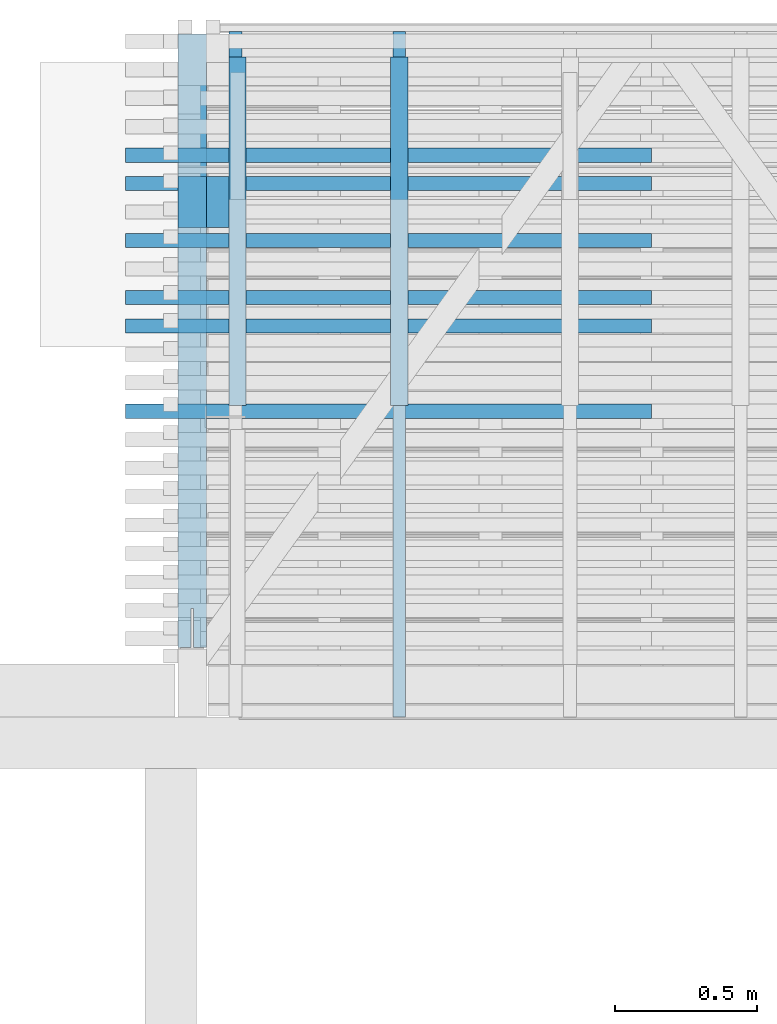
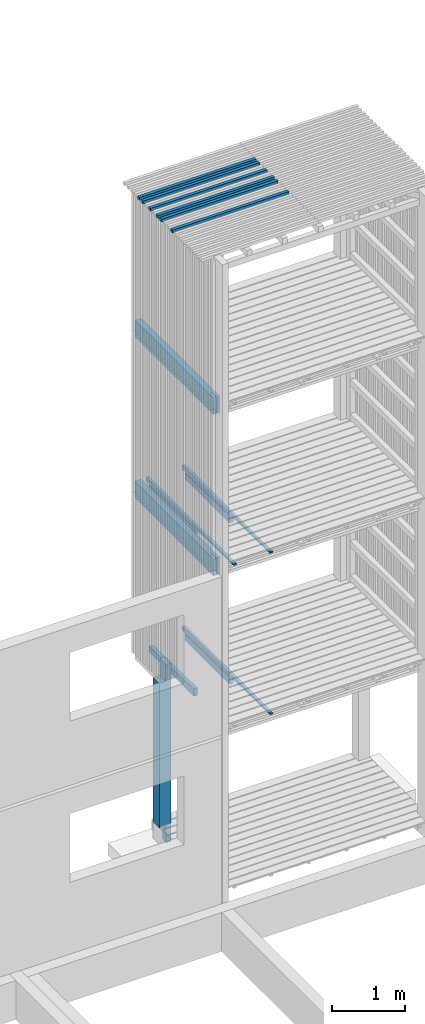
# One storey, part 63 of 182: 16 beams.
"""IFC2X3 building model written with IfcOpenShell, lengths in metres."""

from ifc_helpers import new_model, si_unit, frame, origin, place, context, project, spatial, faceted_brep, element, save


model = new_model("IFC2X3")

# Units and contexts
model_context = context("Model", 3, precision=1e-06, world=origin())
ifc_project = project(units=[si_unit("LENGTHUNIT", "METRE"), si_unit("PLANEANGLEUNIT", "RADIAN")], contexts=[model_context])

# Site, building, storey
site = spatial("IfcSite", under=ifc_project, CompositionType="ELEMENT")
building = spatial("IfcBuilding", under=site, CompositionType="ELEMENT")
storey = spatial("IfcBuildingStorey", under=building, Name="vs", CompositionType="ELEMENT", Elevation=-0.85)

# Beams
placement = place(None, origin())
beam_1_placement = place(placement, frame((24.709999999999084, 11.545077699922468, 10.47999999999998), z_axis=(0.0, 0.0, 1.0), x_axis=(-1.0, -2e-15, 0.0)))
element("IfcBeam", 1, at=beam_1_placement, inside=storey, Name="Bardage", context=model_context, shape_type="Brep", body=[
    faceted_brep([(1.850000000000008, -0.025000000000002, -0.024999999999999), (1.850000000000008, -0.025000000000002, 0.025000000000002), (-1e-15, -0.024999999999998, 0.025000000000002), (-1e-15, -0.024999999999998, -0.024999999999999), (1.850000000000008, -0.025000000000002, 0.025000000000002), (1.850000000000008, -0.025000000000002, -0.024999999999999), (1.850000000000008, 0.024999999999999, -0.024999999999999), (1.850000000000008, 0.024999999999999, 0.025000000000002), (1.850000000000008, 0.024999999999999, -0.024999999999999), (1.850000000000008, -0.025000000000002, -0.024999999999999), (-1e-15, -0.024999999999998, -0.024999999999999), (0.0, 0.025000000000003, -0.024999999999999), (1.850000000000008, 0.024999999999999, 0.025000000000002), (1.850000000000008, 0.024999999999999, -0.024999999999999), (0.0, 0.025000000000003, -0.024999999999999), (0.0, 0.025000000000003, 0.025000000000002), (-1e-15, -0.024999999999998, 0.025000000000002), (1.850000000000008, -0.025000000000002, 0.025000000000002), (1.850000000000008, 0.024999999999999, 0.025000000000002), (0.0, 0.025000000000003, 0.025000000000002), (-1e-15, -0.024999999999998, -0.024999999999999), (-1e-15, -0.024999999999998, 0.025000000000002), (0.0, 0.025000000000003, 0.025000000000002), (0.0, 0.025000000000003, -0.024999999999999)], [[[0, 1, 2, 3]], [[4, 5, 6, 7]], [[8, 9, 10, 11]], [[12, 13, 14, 15]], [[16, 17, 18, 19]], [[20, 21, 22, 23]]]),
])
beam_2_placement = place(placement, frame((23.82299999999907, 11.565077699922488, 5.304249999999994), z_axis=(0.0, 0.0, 1.0), x_axis=(0.0, 1.0, 0.0)))
element("IfcBeam", 2, at=beam_2_placement, inside=storey, Name="Solive", context=model_context, shape_type="Brep", body=[
    faceted_brep([(0.0, -0.030000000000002, -0.061849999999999), (1.225000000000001, -0.030000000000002, -0.061849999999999), (1.225000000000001, -0.030000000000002, 0.03735), (0.0, -0.030000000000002, 0.06185), (0.0, 0.030000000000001, 0.061850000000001), (0.0, 0.030000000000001, -0.061849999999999), (0.0, -0.030000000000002, -0.061849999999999), (0.0, -0.030000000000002, 0.06185), (0.0, -0.030000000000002, -0.061849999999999), (0.0, 0.030000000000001, -0.061849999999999), (1.225000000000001, 0.030000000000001, -0.061849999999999), (1.225000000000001, -0.030000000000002, -0.061849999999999), (1.225000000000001, 0.030000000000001, -0.061849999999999), (0.0, 0.030000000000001, -0.061849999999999), (0.0, 0.030000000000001, 0.061850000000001), (1.225000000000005, 0.030000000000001, 0.03735), (1.225000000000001, -0.030000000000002, 0.03735), (1.225000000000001, -0.030000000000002, -0.061849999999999), (1.225000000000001, 0.030000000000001, -0.061849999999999), (1.225000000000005, 0.030000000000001, 0.03735), (0.0, -0.030000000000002, 0.06185), (1.225000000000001, -0.030000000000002, 0.03735), (1.225000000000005, 0.030000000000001, 0.03735), (0.0, 0.030000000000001, 0.061850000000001)], [[[0, 1, 2, 3]], [[4, 5, 6, 7]], [[8, 9, 10, 11]], [[12, 13, 14, 15]], [[16, 17, 18, 19]], [[20, 21, 22, 23]]]),
])
beam_3_placement = place(placement, frame((24.709999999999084, 11.845077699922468, 10.47999999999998), z_axis=(0.0, 0.0, 1.0), x_axis=(-1.0, -2e-15, 0.0)))
element("IfcBeam", 3, at=beam_3_placement, inside=storey, Name="Bardage", context=model_context, shape_type="Brep", body=[
    faceted_brep([(1.850000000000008, -0.025000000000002, -0.024999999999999), (1.850000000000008, -0.025000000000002, 0.025000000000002), (-1e-15, -0.024999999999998, 0.025000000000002), (-1e-15, -0.024999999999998, -0.024999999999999), (1.850000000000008, -0.025000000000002, 0.025000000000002), (1.850000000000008, -0.025000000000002, -0.024999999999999), (1.850000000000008, 0.024999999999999, -0.024999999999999), (1.850000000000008, 0.024999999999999, 0.025000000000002), (1.850000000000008, 0.024999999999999, -0.024999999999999), (1.850000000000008, -0.025000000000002, -0.024999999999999), (-1e-15, -0.024999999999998, -0.024999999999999), (-1e-15, 0.025000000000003, -0.024999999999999), (1.850000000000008, 0.024999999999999, 0.025000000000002), (1.850000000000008, 0.024999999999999, -0.024999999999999), (-1e-15, 0.025000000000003, -0.024999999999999), (-1e-15, 0.025000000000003, 0.025000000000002), (-1e-15, -0.024999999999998, 0.025000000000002), (1.850000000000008, -0.025000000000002, 0.025000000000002), (1.850000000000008, 0.024999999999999, 0.025000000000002), (-1e-15, 0.025000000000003, 0.025000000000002), (-1e-15, -0.024999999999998, -0.024999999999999), (-1e-15, -0.024999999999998, 0.025000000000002), (-1e-15, 0.025000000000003, 0.025000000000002), (-1e-15, 0.025000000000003, -0.024999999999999)], [[[0, 1, 2, 3]], [[4, 5, 6, 7]], [[8, 9, 10, 11]], [[12, 13, 14, 15]], [[16, 17, 18, 19]], [[20, 21, 22, 23]]]),
])
beam_4_placement = place(placement, frame((23.25499999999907, 11.565077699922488, 2.604249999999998), z_axis=(0.0, 0.0, 1.0), x_axis=(0.0, 1.0, 0.0)))
element("IfcBeam", 4, at=beam_4_placement, inside=storey, Name="Solive", context=model_context, shape_type="Brep", body=[
    faceted_brep([(0.0, -0.030000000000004, -0.06185), (1.225000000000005, -0.030000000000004, -0.06185), (1.225000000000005, -0.030000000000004, 0.037349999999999), (0.0, -0.030000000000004, 0.06185), (0.0, 0.029999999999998, -0.06185), (1.225000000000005, 0.029999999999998, -0.06185), (1.225000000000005, -0.030000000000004, -0.06185), (0.0, -0.030000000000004, -0.06185), (0.0, 0.029999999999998, 0.06185), (0.0, 0.029999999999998, -0.06185), (0.0, -0.030000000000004, -0.06185), (0.0, -0.030000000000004, 0.06185), (1.225000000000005, 0.029999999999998, -0.06185), (0.0, 0.029999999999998, -0.06185), (0.0, 0.029999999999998, 0.06185), (1.225000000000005, 0.029999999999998, 0.037349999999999), (1.225000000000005, -0.030000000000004, 0.037349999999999), (1.225000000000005, -0.030000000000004, -0.06185), (1.225000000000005, 0.029999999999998, -0.06185), (1.225000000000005, 0.029999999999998, 0.037349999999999), (0.0, -0.030000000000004, 0.06185), (1.225000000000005, -0.030000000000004, 0.037349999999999), (1.225000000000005, 0.029999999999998, 0.037349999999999), (0.0, 0.029999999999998, 0.06185)], [[[0, 1, 2, 3]], [[4, 5, 6, 7]], [[8, 9, 10, 11]], [[12, 13, 14, 15]], [[16, 17, 18, 19]], [[20, 21, 22, 23]]]),
])
beam_5_placement = place(placement, frame((23.24749999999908, 10.470077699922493, 5.384400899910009), z_axis=(0.0, 0.0, 1.0), x_axis=(0.0, 1.0, 0.0)))
element("IfcBeam", 5, at=beam_5_placement, inside=storey, Name="Calage", context=model_context, shape_type="Brep", body=[
    faceted_brep([(2.41000000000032, -0.022499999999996, -0.035599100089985), (0.0, -0.022499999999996, 0.012600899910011), (0.0, 0.022500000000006, 0.012600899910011), (2.41000000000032, 0.022500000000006, -0.035599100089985), (0.0, 0.022500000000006, 0.035599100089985), (0.0, 0.022500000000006, 0.012600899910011), (0.0, -0.022499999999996, 0.012600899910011), (0.0, -0.022499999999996, 0.035599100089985), (2.41000000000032, 0.022500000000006, -0.035599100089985), (0.0, 0.022500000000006, 0.012600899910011), (0.0, 0.022500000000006, 0.035599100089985), (2.41000000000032, 0.022500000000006, 0.035599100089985), (2.41000000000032, -0.022499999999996, 0.035599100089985), (0.0, -0.022499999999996, 0.035599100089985), (0.0, -0.022499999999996, 0.012600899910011), (2.41000000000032, -0.022499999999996, -0.035599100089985), (2.41000000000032, 0.022500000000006, 0.035599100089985), (0.0, 0.022500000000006, 0.035599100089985), (0.0, -0.022499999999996, 0.035599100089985), (2.41000000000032, -0.022499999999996, 0.035599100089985), (2.41000000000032, 0.022500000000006, -0.035599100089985), (2.41000000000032, 0.022500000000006, 0.035599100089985), (2.41000000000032, -0.022499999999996, 0.035599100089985), (2.41000000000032, -0.022499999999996, -0.035599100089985)], [[[0, 1, 2, 3]], [[4, 5, 6, 7]], [[8, 9, 10, 11]], [[12, 13, 14, 15]], [[16, 17, 18, 19]], [[20, 21, 22, 23]]]),
])
beam_6_placement = place(placement, frame((23.82299999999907, 10.470077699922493, 2.684400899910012), z_axis=(0.0, 0.0, 1.0), x_axis=(0.0, 1.0, 0.0)))
element("IfcBeam", 6, at=beam_6_placement, inside=storey, Name="Calage", context=model_context, shape_type="Brep", body=[
    faceted_brep([(2.41000000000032, -0.022500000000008, -0.035599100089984), (0.0, -0.022500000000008, 0.012600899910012), (0.0, 0.022499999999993, 0.012600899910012), (2.41000000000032, 0.022499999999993, -0.035599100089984), (0.0, 0.022499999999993, 0.035599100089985), (0.0, 0.022499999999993, 0.012600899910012), (0.0, -0.022500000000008, 0.012600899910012), (0.0, -0.022500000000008, 0.035599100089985), (2.41000000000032, 0.022499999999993, -0.035599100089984), (0.0, 0.022499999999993, 0.012600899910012), (0.0, 0.022499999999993, 0.035599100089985), (2.41000000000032, 0.022499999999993, 0.035599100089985), (2.41000000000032, -0.022500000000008, 0.035599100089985), (0.0, -0.022500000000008, 0.035599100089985), (0.0, -0.022500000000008, 0.012600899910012), (2.41000000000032, -0.022500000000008, -0.035599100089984), (2.41000000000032, 0.022499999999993, 0.035599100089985), (0.0, 0.022499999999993, 0.035599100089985), (0.0, -0.022500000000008, 0.035599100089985), (2.41000000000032, -0.022500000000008, 0.035599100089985), (2.41000000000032, 0.022499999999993, -0.035599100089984), (2.41000000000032, 0.022499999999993, 0.035599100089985), (2.41000000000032, -0.022500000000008, 0.035599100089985), (2.41000000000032, -0.022500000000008, -0.035599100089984)], [[[0, 1, 2, 3]], [[4, 5, 6, 7]], [[8, 9, 10, 11]], [[12, 13, 14, 15]], [[16, 17, 18, 19]], [[20, 21, 22, 23]]]),
])
beam_7_placement = place(placement, frame((24.709999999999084, 12.145077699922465, 10.47999999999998), z_axis=(0.0, 0.0, 1.0), x_axis=(-1.0, 0.0, 0.0)))
element("IfcBeam", 7, at=beam_7_placement, inside=storey, Name="Bardage", context=model_context, shape_type="Brep", body=[
    faceted_brep([(1.850000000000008, -0.024999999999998, -0.024999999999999), (1.850000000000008, -0.024999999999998, 0.025000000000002), (-1e-15, -0.025000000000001, 0.025000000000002), (-1e-15, -0.025000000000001, -0.024999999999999), (1.850000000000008, -0.024999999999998, 0.025000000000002), (1.850000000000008, -0.024999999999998, -0.024999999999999), (1.850000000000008, 0.024999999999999, -0.024999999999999), (1.850000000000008, 0.024999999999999, 0.025000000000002), (1.850000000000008, 0.024999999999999, -0.024999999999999), (1.850000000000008, -0.024999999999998, -0.024999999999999), (-1e-15, -0.025000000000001, -0.024999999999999), (-1e-15, 0.024999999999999, -0.024999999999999), (1.850000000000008, 0.024999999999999, 0.025000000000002), (1.850000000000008, 0.024999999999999, -0.024999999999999), (-1e-15, 0.024999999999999, -0.024999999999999), (-1e-15, 0.024999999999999, 0.025000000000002), (-1e-15, -0.025000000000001, 0.025000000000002), (1.850000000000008, -0.024999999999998, 0.025000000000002), (1.850000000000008, 0.024999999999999, 0.025000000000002), (-1e-15, 0.024999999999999, 0.025000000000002), (-1e-15, -0.025000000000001, -0.024999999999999), (-1e-15, -0.025000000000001, 0.025000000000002), (-1e-15, 0.024999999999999, 0.025000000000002), (-1e-15, 0.024999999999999, -0.024999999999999)], [[[0, 1, 2, 3]], [[4, 5, 6, 7]], [[8, 9, 10, 11]], [[12, 13, 14, 15]], [[16, 17, 18, 19]], [[20, 21, 22, 23]]]),
])
beam_8_placement = place(placement, frame((23.82299999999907, 11.565077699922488, 2.604249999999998), z_axis=(0.0, 0.0, 1.0), x_axis=(0.0, 1.0, 0.0)))
element("IfcBeam", 8, at=beam_8_placement, inside=storey, Name="Solive", context=model_context, shape_type="Brep", body=[
    faceted_brep([(0.0, -0.030000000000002, -0.06185), (1.225000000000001, -0.030000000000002, -0.06185), (1.225000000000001, -0.030000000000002, 0.037349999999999), (0.0, -0.030000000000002, 0.06185), (0.0, 0.030000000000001, 0.06185), (0.0, 0.030000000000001, -0.06185), (0.0, -0.030000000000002, -0.06185), (0.0, -0.030000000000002, 0.06185), (0.0, -0.030000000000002, -0.06185), (0.0, 0.030000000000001, -0.06185), (1.225000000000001, 0.030000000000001, -0.06185), (1.225000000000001, -0.030000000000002, -0.06185), (1.225000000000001, 0.030000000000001, -0.06185), (0.0, 0.030000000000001, -0.06185), (0.0, 0.030000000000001, 0.06185), (1.225000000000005, 0.030000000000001, 0.037349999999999), (1.225000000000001, -0.030000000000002, 0.037349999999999), (1.225000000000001, -0.030000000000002, -0.06185), (1.225000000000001, 0.030000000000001, -0.06185), (1.225000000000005, 0.030000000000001, 0.037349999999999), (0.0, -0.030000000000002, 0.06185), (1.225000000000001, -0.030000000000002, 0.037349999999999), (1.225000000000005, 0.030000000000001, 0.037349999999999), (0.0, 0.030000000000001, 0.06185)], [[[0, 1, 2, 3]], [[4, 5, 6, 7]], [[8, 9, 10, 11]], [[12, 13, 14, 15]], [[16, 17, 18, 19]], [[20, 21, 22, 23]]]),
])
beam_9_placement = place(placement, frame((23.094999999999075, 10.715077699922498, 5.279999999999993), z_axis=(0.0, 0.0, 1.0), x_axis=(0.0, 1.0, 0.0)))
element("IfcBeam", 9, at=beam_9_placement, inside=storey, Name="Sommier", context=model_context, shape_type="Brep", body=[
    faceted_brep([(2.154999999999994, 0.049999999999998, 0.140000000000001), (2.154999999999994, -0.049999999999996, 0.140000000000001), (2.154999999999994, -0.049999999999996, -0.140000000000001), (2.154999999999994, 0.049999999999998, -0.140000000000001), (0.771999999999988, -0.049999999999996, -0.140000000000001), (0.771999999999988, -0.049999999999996, 0.034999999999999), (0.847999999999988, -0.049999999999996, 0.034999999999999), (0.847999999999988, -0.049999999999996, -0.140000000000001), (2.154999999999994, -0.049999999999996, -0.140000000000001), (2.154999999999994, -0.049999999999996, 0.140000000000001), (0.0, -0.049999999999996, 0.140000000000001), (0.0, -0.049999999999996, -0.140000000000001), (0.771999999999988, -0.045000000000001, -0.140000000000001), (0.847999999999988, -0.045000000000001, -0.140000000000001), (0.847999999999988, -0.045000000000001, 0.034999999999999), (0.771999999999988, -0.045000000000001, 0.034999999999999), (0.771999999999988, -0.045000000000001, 0.034999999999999), (0.847999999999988, -0.045000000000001, 0.034999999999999), (0.847999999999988, -0.049999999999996, 0.034999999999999), (0.771999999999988, -0.049999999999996, 0.034999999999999), (0.847999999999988, -0.045000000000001, 0.034999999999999), (0.847999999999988, -0.045000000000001, -0.140000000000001), (0.847999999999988, -0.049999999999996, -0.140000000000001), (0.847999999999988, -0.049999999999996, 0.034999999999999), (0.771999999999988, -0.049999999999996, 0.034999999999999), (0.771999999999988, -0.049999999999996, -0.140000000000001), (0.771999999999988, -0.045000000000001, -0.140000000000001), (0.771999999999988, -0.045000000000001, 0.034999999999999), (2.154999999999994, 0.049999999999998, 0.140000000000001), (2.154999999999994, 0.049999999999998, -0.140000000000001), (0.0, 0.049999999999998, -0.140000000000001), (0.0, 0.049999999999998, 0.140000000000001), (0.0, -0.00399999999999, 0.140000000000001), (0.0, -0.049999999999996, 0.140000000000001), (2.154999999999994, -0.049999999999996, 0.140000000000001), (2.154999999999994, 0.049999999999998, 0.140000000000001), (0.0, 0.049999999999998, 0.140000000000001), (0.0, 0.004000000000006, 0.140000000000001), (0.137, 0.004000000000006, 0.140000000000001), (0.137, -0.00399999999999, 0.140000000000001), (0.0, 0.004000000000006, -0.140000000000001), (0.0, 0.004000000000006, 0.140000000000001), (0.0, 0.049999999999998, 0.140000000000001), (0.0, 0.049999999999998, -0.140000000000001), (0.0, -0.049999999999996, 0.140000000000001), (0.0, -0.00399999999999, 0.140000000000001), (0.0, -0.00399999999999, -0.140000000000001), (0.0, -0.049999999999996, -0.140000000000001), (0.0, 0.049999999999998, -0.140000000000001), (2.154999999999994, 0.049999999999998, -0.140000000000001), (2.154999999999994, -0.049999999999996, -0.140000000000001), (0.847999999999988, -0.049999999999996, -0.140000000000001), (0.847999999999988, -0.045000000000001, -0.140000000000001), (0.771999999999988, -0.045000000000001, -0.140000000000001), (0.771999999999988, -0.049999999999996, -0.140000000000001), (0.0, -0.049999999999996, -0.140000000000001), (0.0, -0.00399999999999, -0.140000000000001), (0.137, -0.00399999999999, -0.140000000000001), (0.137, 0.004000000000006, -0.140000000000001), (0.0, 0.004000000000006, -0.140000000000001), (0.137, 0.004000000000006, -0.140000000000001), (0.137, -0.00399999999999, -0.140000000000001), (0.137, -0.00399999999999, 0.140000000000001), (0.137, 0.004000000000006, 0.140000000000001), (0.0, -0.00399999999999, 0.140000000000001), (0.137, -0.00399999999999, 0.140000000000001), (0.137, -0.00399999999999, -0.140000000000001), (0.0, -0.00399999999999, -0.140000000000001), (0.137, 0.004000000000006, 0.140000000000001), (0.0, 0.004000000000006, 0.140000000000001), (0.0, 0.004000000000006, -0.140000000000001), (0.137, 0.004000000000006, -0.140000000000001)], [[[0, 1, 2, 3]], [[4, 5, 6, 7, 8, 9, 10, 11]], [[12, 13, 14, 15]], [[16, 17, 18, 19]], [[20, 21, 22, 23]], [[24, 25, 26, 27]], [[28, 29, 30, 31]], [[32, 33, 34, 35, 36, 37, 38, 39]], [[40, 41, 42, 43]], [[44, 45, 46, 47]], [[48, 49, 50, 51, 52, 53, 54, 55, 56, 57, 58, 59]], [[60, 61, 62, 63]], [[64, 65, 66, 67]], [[68, 69, 70, 71]]]),
])
beam_10_placement = place(placement, frame((23.25499999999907, 11.565077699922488, 5.304249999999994), z_axis=(0.0, 0.0, 1.0), x_axis=(0.0, 1.0, 0.0)))
element("IfcBeam", 10, at=beam_10_placement, inside=storey, Name="Solive", context=model_context, shape_type="Brep", body=[
    faceted_brep([(0.0, -0.030000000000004, -0.061849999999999), (1.225000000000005, -0.030000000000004, -0.061849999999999), (1.225000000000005, -0.030000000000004, 0.03735), (0.0, -0.030000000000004, 0.06185), (0.0, 0.029999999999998, -0.061849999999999), (1.225000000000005, 0.029999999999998, -0.061849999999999), (1.225000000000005, -0.030000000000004, -0.061849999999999), (0.0, -0.030000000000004, -0.061849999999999), (0.0, 0.029999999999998, 0.061850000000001), (0.0, 0.029999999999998, -0.061849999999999), (0.0, -0.030000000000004, -0.061849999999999), (0.0, -0.030000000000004, 0.06185), (1.225000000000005, 0.029999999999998, -0.061849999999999), (0.0, 0.029999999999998, -0.061849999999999), (0.0, 0.029999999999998, 0.061850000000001), (1.225000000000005, 0.029999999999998, 0.03735), (1.225000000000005, -0.030000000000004, 0.03735), (1.225000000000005, -0.030000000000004, -0.061849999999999), (1.225000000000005, 0.029999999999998, -0.061849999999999), (1.225000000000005, 0.029999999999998, 0.03735), (0.0, -0.030000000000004, 0.06185), (1.225000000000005, -0.030000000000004, 0.03735), (1.225000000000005, 0.029999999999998, 0.03735), (0.0, 0.029999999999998, 0.061850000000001)], [[[0, 1, 2, 3]], [[4, 5, 6, 7]], [[8, 9, 10, 11]], [[12, 13, 14, 15]], [[16, 17, 18, 19]], [[20, 21, 22, 23]]]),
])
beam_11_placement = place(placement, frame((23.094999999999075, 10.715077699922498, 7.979999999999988), z_axis=(0.0, 0.0, 1.0), x_axis=(0.0, 1.0, 0.0)))
element("IfcBeam", 11, at=beam_11_placement, inside=storey, Name="Sommier", context=model_context, shape_type="Brep", body=[
    faceted_brep([(2.154999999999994, 0.049999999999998, 0.140000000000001), (2.154999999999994, -0.049999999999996, 0.140000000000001), (2.154999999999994, -0.049999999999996, -0.14), (2.154999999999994, 0.049999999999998, -0.14), (0.771999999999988, -0.049999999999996, -0.14), (0.771999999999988, -0.049999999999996, 0.035000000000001), (0.847999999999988, -0.049999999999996, 0.035000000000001), (0.847999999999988, -0.049999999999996, -0.14), (2.154999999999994, -0.049999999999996, -0.14), (2.154999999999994, -0.049999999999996, 0.140000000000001), (0.0, -0.049999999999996, 0.140000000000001), (0.0, -0.049999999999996, -0.14), (0.771999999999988, -0.045000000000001, -0.14), (0.847999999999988, -0.045000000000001, -0.14), (0.847999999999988, -0.045000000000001, 0.035000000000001), (0.771999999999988, -0.045000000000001, 0.035000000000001), (0.771999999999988, -0.045000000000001, 0.035000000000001), (0.847999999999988, -0.045000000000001, 0.035000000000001), (0.847999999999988, -0.049999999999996, 0.035000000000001), (0.771999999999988, -0.049999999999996, 0.035000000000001), (0.847999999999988, -0.045000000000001, 0.035000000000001), (0.847999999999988, -0.045000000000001, -0.14), (0.847999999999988, -0.049999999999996, -0.14), (0.847999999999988, -0.049999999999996, 0.035000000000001), (0.771999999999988, -0.049999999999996, 0.035000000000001), (0.771999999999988, -0.049999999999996, -0.14), (0.771999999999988, -0.045000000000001, -0.14), (0.771999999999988, -0.045000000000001, 0.035000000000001), (2.154999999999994, 0.049999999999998, 0.140000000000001), (2.154999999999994, 0.049999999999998, -0.14), (0.0, 0.049999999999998, -0.14), (0.0, 0.049999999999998, 0.140000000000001), (0.0, -0.00399999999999, 0.140000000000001), (0.0, -0.049999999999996, 0.140000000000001), (2.154999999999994, -0.049999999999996, 0.140000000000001), (2.154999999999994, 0.049999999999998, 0.140000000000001), (0.0, 0.049999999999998, 0.140000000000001), (0.0, 0.004000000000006, 0.140000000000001), (0.137, 0.004000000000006, 0.140000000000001), (0.137, -0.00399999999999, 0.140000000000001), (0.0, 0.004000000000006, -0.14), (0.0, 0.004000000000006, 0.140000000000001), (0.0, 0.049999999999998, 0.140000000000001), (0.0, 0.049999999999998, -0.14), (0.0, -0.049999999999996, 0.140000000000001), (0.0, -0.00399999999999, 0.140000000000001), (0.0, -0.00399999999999, -0.14), (0.0, -0.049999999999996, -0.14), (0.0, 0.049999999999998, -0.14), (2.154999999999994, 0.049999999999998, -0.14), (2.154999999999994, -0.049999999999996, -0.14), (0.847999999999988, -0.049999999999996, -0.14), (0.847999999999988, -0.045000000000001, -0.14), (0.771999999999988, -0.045000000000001, -0.14), (0.771999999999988, -0.049999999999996, -0.14), (0.0, -0.049999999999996, -0.14), (0.0, -0.00399999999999, -0.14), (0.137, -0.00399999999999, -0.14), (0.137, 0.004000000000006, -0.14), (0.0, 0.004000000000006, -0.14), (0.137, 0.004000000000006, -0.14), (0.137, -0.00399999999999, -0.14), (0.137, -0.00399999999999, 0.140000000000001), (0.137, 0.004000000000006, 0.140000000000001), (0.0, -0.00399999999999, 0.140000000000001), (0.137, -0.00399999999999, 0.140000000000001), (0.137, -0.00399999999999, -0.14), (0.0, -0.00399999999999, -0.14), (0.137, 0.004000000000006, 0.140000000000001), (0.0, 0.004000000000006, 0.140000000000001), (0.0, 0.004000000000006, -0.14), (0.137, 0.004000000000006, -0.14)], [[[0, 1, 2, 3]], [[4, 5, 6, 7, 8, 9, 10, 11]], [[12, 13, 14, 15]], [[16, 17, 18, 19]], [[20, 21, 22, 23]], [[24, 25, 26, 27]], [[28, 29, 30, 31]], [[32, 33, 34, 35, 36, 37, 38, 39]], [[40, 41, 42, 43]], [[44, 45, 46, 47]], [[48, 49, 50, 51, 52, 53, 54, 55, 56, 57, 58, 59]], [[60, 61, 62, 63]], [[64, 65, 66, 67]], [[68, 69, 70, 71]]]),
])
beam_12_placement = place(placement, frame((24.709999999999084, 11.945077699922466, 10.47999999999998), z_axis=(0.0, 0.0, 1.0), x_axis=(-1.0, 0.0, 0.0)))
element("IfcBeam", 12, at=beam_12_placement, inside=storey, Name="Bardage", context=model_context, shape_type="Brep", body=[
    faceted_brep([(1.850000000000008, -0.025000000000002, -0.024999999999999), (1.850000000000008, -0.025000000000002, 0.025000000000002), (-1e-15, -0.025000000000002, 0.025000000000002), (-1e-15, -0.025000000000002, -0.024999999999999), (1.850000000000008, -0.025000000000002, 0.025000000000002), (1.850000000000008, -0.025000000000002, -0.024999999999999), (1.850000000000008, 0.025000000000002, -0.024999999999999), (1.850000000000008, 0.025000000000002, 0.025000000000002), (1.850000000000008, 0.025000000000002, -0.024999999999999), (1.850000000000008, -0.025000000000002, -0.024999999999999), (-1e-15, -0.025000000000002, -0.024999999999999), (-1e-15, 0.024999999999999, -0.024999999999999), (1.850000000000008, 0.025000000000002, 0.025000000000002), (1.850000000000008, 0.025000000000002, -0.024999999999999), (-1e-15, 0.024999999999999, -0.024999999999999), (-1e-15, 0.024999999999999, 0.025000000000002), (-1e-15, -0.025000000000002, 0.025000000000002), (1.850000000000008, -0.025000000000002, 0.025000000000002), (1.850000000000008, 0.025000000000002, 0.025000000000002), (-1e-15, 0.024999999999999, 0.025000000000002), (-1e-15, -0.025000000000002, -0.024999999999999), (-1e-15, -0.025000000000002, 0.025000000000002), (-1e-15, 0.024999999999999, 0.025000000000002), (-1e-15, 0.024999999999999, -0.024999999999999)], [[[0, 1, 2, 3]], [[4, 5, 6, 7]], [[8, 9, 10, 11]], [[12, 13, 14, 15]], [[16, 17, 18, 19]], [[20, 21, 22, 23]]]),
])
beam_13_placement = place(placement, frame((24.709999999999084, 12.345077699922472, 10.47999999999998), z_axis=(0.0, 0.0, 1.0), x_axis=(-1.0, 0.0, 0.0)))
element("IfcBeam", 13, at=beam_13_placement, inside=storey, Name="Bardage", context=model_context, shape_type="Brep", body=[
    faceted_brep([(1.850000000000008, -0.024999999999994, -0.024999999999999), (1.850000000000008, -0.024999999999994, 0.025000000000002), (-1e-15, -0.024999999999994, 0.025000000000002), (-1e-15, -0.024999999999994, -0.024999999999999), (1.850000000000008, -0.024999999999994, 0.025000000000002), (1.850000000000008, -0.024999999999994, -0.024999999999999), (1.850000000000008, 0.025000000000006, -0.024999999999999), (1.850000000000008, 0.025000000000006, 0.025000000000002), (1.850000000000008, 0.025000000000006, -0.024999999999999), (1.850000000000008, -0.024999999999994, -0.024999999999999), (-1e-15, -0.024999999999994, -0.024999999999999), (-1e-15, 0.025000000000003, -0.024999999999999), (1.850000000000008, 0.025000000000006, 0.025000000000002), (1.850000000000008, 0.025000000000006, -0.024999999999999), (-1e-15, 0.025000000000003, -0.024999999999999), (-1e-15, 0.025000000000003, 0.025000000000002), (-1e-15, -0.024999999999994, 0.025000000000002), (1.850000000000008, -0.024999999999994, 0.025000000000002), (1.850000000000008, 0.025000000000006, 0.025000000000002), (-1e-15, 0.025000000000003, 0.025000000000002), (-1e-15, -0.024999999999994, -0.024999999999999), (-1e-15, -0.024999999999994, 0.025000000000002), (-1e-15, 0.025000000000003, 0.025000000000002), (-1e-15, 0.025000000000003, -0.024999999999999)], [[[0, 1, 2, 3]], [[4, 5, 6, 7]], [[8, 9, 10, 11]], [[12, 13, 14, 15]], [[16, 17, 18, 19]], [[20, 21, 22, 23]]]),
])
beam_14_placement = place(placement, frame((24.709999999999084, 12.44507769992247, 10.47999999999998), z_axis=(0.0, 0.0, 1.0), x_axis=(-1.0, -2e-15, 0.0)))
element("IfcBeam", 14, at=beam_14_placement, inside=storey, Name="Bardage", context=model_context, shape_type="Brep", body=[
    faceted_brep([(1.850000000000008, -0.025000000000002, -0.024999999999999), (1.850000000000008, -0.025000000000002, 0.025000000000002), (-1e-15, -0.024999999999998, 0.025000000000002), (-1e-15, -0.024999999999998, -0.024999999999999), (1.850000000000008, -0.025000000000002, 0.025000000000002), (1.850000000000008, -0.025000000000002, -0.024999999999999), (1.850000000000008, 0.025000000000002, -0.024999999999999), (1.850000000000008, 0.025000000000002, 0.025000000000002), (1.850000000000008, 0.025000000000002, -0.024999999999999), (1.850000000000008, -0.025000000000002, -0.024999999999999), (-1e-15, -0.024999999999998, -0.024999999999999), (0.0, 0.025000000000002, -0.024999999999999), (1.850000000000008, 0.025000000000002, 0.025000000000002), (1.850000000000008, 0.025000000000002, -0.024999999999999), (0.0, 0.025000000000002, -0.024999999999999), (0.0, 0.025000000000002, 0.025000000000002), (-1e-15, -0.024999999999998, 0.025000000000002), (1.850000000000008, -0.025000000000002, 0.025000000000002), (1.850000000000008, 0.025000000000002, 0.025000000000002), (0.0, 0.025000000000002, 0.025000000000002), (-1e-15, -0.024999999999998, -0.024999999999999), (-1e-15, -0.024999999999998, 0.025000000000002), (0.0, 0.025000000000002, 0.025000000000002), (0.0, 0.025000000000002, -0.024999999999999)], [[[0, 1, 2, 3]], [[4, 5, 6, 7]], [[8, 9, 10, 11]], [[12, 13, 14, 15]], [[16, 17, 18, 19]], [[20, 21, 22, 23]]]),
])
beam_15_placement = place(placement, frame((23.134999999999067, 12.280077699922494, -0.259999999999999), z_axis=(0.0, -1.0, 0.0), x_axis=(0.0, 0.0, 1.0)))
element("IfcBeam", 15, at=beam_15_placement, inside=storey, Name="Poteau", context=model_context, shape_type="Brep", body=[
    faceted_brep([(0.0, -0.010000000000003, 0.090000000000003), (0.0, -0.010000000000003, -0.009999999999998), (0.0, -0.090000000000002, -0.009999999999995), (0.0, -0.090000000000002, 0.090000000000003), (0.280000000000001, -0.010000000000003, -0.089999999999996), (0.28, -0.010000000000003, 0.090000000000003), (0.28, 0.089999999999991, 0.090000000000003), (0.280000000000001, 0.089999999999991, -0.089999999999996), (0.200000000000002, -0.090000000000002, -0.009999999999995), (0.200000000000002, -0.010000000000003, -0.009999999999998), (0.200000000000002, -0.010000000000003, -0.089999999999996), (0.200000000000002, -0.090000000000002, -0.089999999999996), (0.0, -0.010000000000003, -0.009999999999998), (0.0, -0.010000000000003, 0.090000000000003), (0.28, -0.010000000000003, 0.090000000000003), (0.280000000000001, -0.010000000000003, -0.089999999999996), (0.200000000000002, -0.010000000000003, -0.089999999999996), (0.200000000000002, -0.010000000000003, -0.009999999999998), (0.0, -0.010000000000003, -0.009999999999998), (0.200000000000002, -0.010000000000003, -0.009999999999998), (0.200000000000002, -0.090000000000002, -0.009999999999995), (0.0, -0.090000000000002, -0.009999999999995), (0.280000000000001, 0.089999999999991, -0.089999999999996), (0.28, 0.089999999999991, 0.090000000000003), (2.699999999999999, 0.089999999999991, 0.090000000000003), (2.699999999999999, 0.089999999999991, -0.089999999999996), (2.979999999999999, -0.010000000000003, 0.090000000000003), (2.699999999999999, -0.010000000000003, 0.090000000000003), (2.699999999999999, 0.089999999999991, 0.090000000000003), (0.28, 0.089999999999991, 0.090000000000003), (0.28, -0.010000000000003, 0.090000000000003), (0.0, -0.010000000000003, 0.090000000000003), (0.0, -0.090000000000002, 0.090000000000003), (2.979999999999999, -0.090000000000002, 0.090000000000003), (2.979999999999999, -0.090000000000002, 0.090000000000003), (0.0, -0.090000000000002, 0.090000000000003), (0.0, -0.090000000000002, -0.009999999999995), (0.200000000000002, -0.090000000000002, -0.009999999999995), (0.200000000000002, -0.090000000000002, -0.089999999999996), (2.979999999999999, -0.090000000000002, -0.089999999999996), (2.979999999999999, -0.010000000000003, -0.089999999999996), (2.979999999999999, -0.090000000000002, -0.089999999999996), (0.200000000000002, -0.090000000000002, -0.089999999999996), (0.200000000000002, -0.010000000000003, -0.089999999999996), (0.280000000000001, -0.010000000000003, -0.089999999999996), (0.280000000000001, 0.089999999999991, -0.089999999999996), (2.699999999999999, 0.089999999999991, -0.089999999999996), (2.699999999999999, -0.010000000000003, -0.089999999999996), (2.699999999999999, -0.010000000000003, -0.089999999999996), (2.699999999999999, 0.089999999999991, -0.089999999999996), (2.699999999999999, 0.089999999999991, 0.090000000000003), (2.699999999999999, -0.010000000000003, 0.090000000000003), (2.979999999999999, -0.010000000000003, -0.089999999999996), (2.699999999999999, -0.010000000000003, -0.089999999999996), (2.699999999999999, -0.010000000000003, 0.090000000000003), (2.979999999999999, -0.010000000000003, 0.090000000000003), (2.979999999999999, -0.010000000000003, -0.089999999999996), (2.979999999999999, -0.010000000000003, 0.090000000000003), (2.979999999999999, -0.090000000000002, 0.090000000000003), (2.979999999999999, -0.090000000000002, -0.089999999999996)], [[[0, 1, 2, 3]], [[4, 5, 6, 7]], [[8, 9, 10, 11]], [[12, 13, 14, 15, 16, 17]], [[18, 19, 20, 21]], [[22, 23, 24, 25]], [[26, 27, 28, 29, 30, 31, 32, 33]], [[34, 35, 36, 37, 38, 39]], [[40, 41, 42, 43, 44, 45, 46, 47]], [[48, 49, 50, 51]], [[52, 53, 54, 55]], [[56, 57, 58, 59]]]),
])
beam_16_placement = place(placement, frame((23.82299999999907, 10.470077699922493, 5.384400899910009), z_axis=(0.0, 0.0, 1.0), x_axis=(0.0, 1.0, 0.0)))
element("IfcBeam", 16, at=beam_16_placement, inside=storey, Name="Calage", context=model_context, shape_type="Brep", body=[
    faceted_brep([(2.41000000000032, -0.022500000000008, -0.035599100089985), (0.0, -0.022500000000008, 0.012600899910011), (0.0, 0.022499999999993, 0.012600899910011), (2.41000000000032, 0.022499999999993, -0.035599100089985), (0.0, 0.022499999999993, 0.035599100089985), (0.0, 0.022499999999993, 0.012600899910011), (0.0, -0.022500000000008, 0.012600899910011), (0.0, -0.022500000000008, 0.035599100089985), (2.41000000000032, 0.022499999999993, -0.035599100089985), (0.0, 0.022499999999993, 0.012600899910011), (0.0, 0.022499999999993, 0.035599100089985), (2.41000000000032, 0.022499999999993, 0.035599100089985), (2.41000000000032, -0.022500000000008, 0.035599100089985), (0.0, -0.022500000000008, 0.035599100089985), (0.0, -0.022500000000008, 0.012600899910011), (2.41000000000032, -0.022500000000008, -0.035599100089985), (2.41000000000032, 0.022499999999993, 0.035599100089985), (0.0, 0.022499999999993, 0.035599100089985), (0.0, -0.022500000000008, 0.035599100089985), (2.41000000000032, -0.022500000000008, 0.035599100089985), (2.41000000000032, 0.022499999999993, -0.035599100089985), (2.41000000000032, 0.022499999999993, 0.035599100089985), (2.41000000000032, -0.022500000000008, 0.035599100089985), (2.41000000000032, -0.022500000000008, -0.035599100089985)], [[[0, 1, 2, 3]], [[4, 5, 6, 7]], [[8, 9, 10, 11]], [[12, 13, 14, 15]], [[16, 17, 18, 19]], [[20, 21, 22, 23]]]),
])

save(model, "model.ifc")
